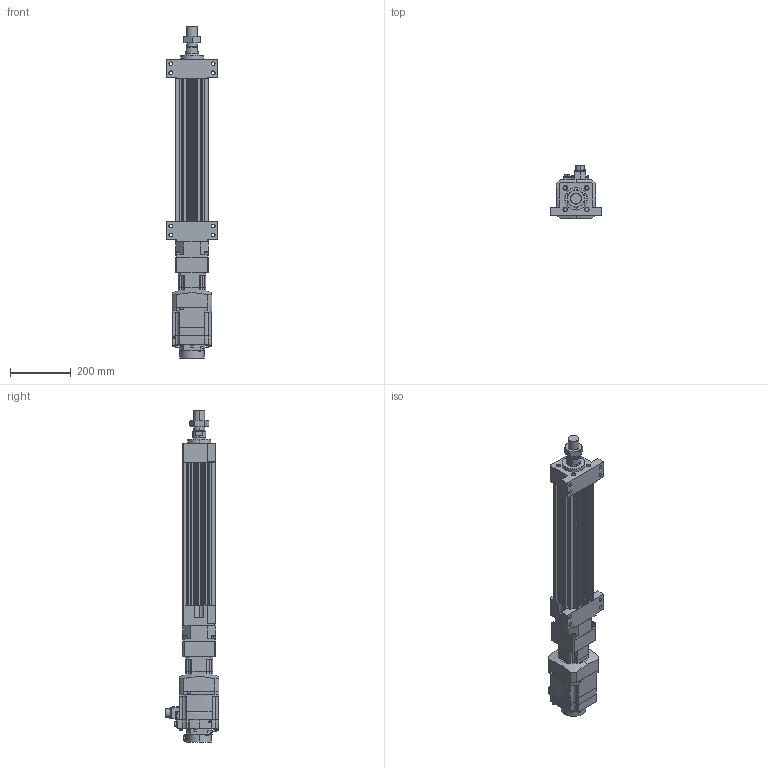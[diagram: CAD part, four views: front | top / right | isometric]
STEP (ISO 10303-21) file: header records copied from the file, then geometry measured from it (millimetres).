
FILE_DESCRIPTION (( 'STEP AP203' ), '1' );
FILE_NAME ('HES110NS(HS)-S300-W010G00-M-FFB.STEP', '2026-06-10T05:59:16', ( 'tms' ), ( '' ), 'SwSTEP 2.0', 'SolidWorks 2013', '' );
FILE_SCHEMA (( 'CONFIG_CONTROL_DESIGN' ));
Length unit declared in the file: millimetre
Products named in the file (8): HES110NS(HS)-S300-W010G00-M-FFB; HES110-M-ROD-300; M36X1.5P; AB0901; AB0902; HES110-FFB-300; HG-SR102B; HES110-S-G90
Assembly tree (7 placements, depth 2):
  HES110NS(HS)-S300-W010G00-M-FFB
    HES110-FFB-300
    HES110-M-ROD-300
    M36X1.5P
    HES110-S-G90
    AB0901
    AB0902
    HG-SR102B
Bounding box: 170 x 177.49 x 1093 mm (x, y, z)
Volume: 7458031 mm3; surface area: 954148.1 mm2
Topology: 5 solids, 12 shells, 1194 faces, 3036 edges, 1981 vertices
Faces by surface type: plane 560, cylinder 552, cone 68, bspline 10, torus 4
Entity records: 38266 total; most frequent: CARTESIAN_POINT 7539, DIRECTION 6557, ORIENTED_EDGE 6044, EDGE_CURVE 3032, AXIS2_PLACEMENT_3D 2423, VERTEX_POINT 1981, VECTOR 1711, LINE 1711
